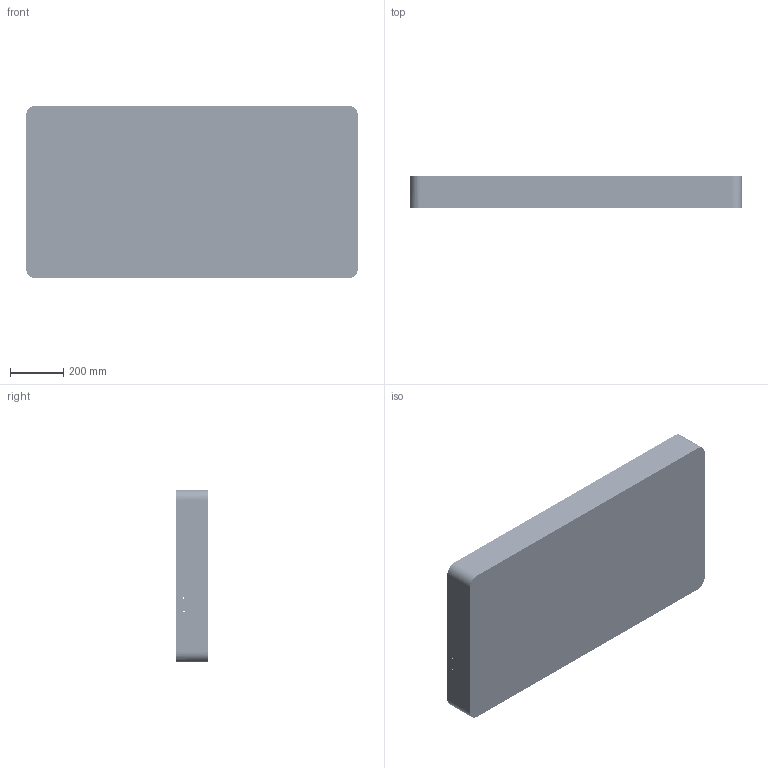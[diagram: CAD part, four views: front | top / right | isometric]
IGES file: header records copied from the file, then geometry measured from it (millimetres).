
Start section: SolidWorks IGES file using analytic representation for surfaces
Global section: file name: C:\Working\550 case\0550 OEM file\0550 TOP OEM.IGS; native system: SolidWorks 2007; preprocessor: SolidWorks 2007; author: mhakami; date: 100517.103531; units: inch
Bounding box: 1244.59 x 120.65 x 647.69 mm (x, y, z)
Surface area: 3495443.5 mm2 (no closed solid volume)
Topology: 0 solids, 0 shells, 8285 faces, 90839 edges, 90782 vertices
Faces by surface type: revolution 5177, bspline 3108
